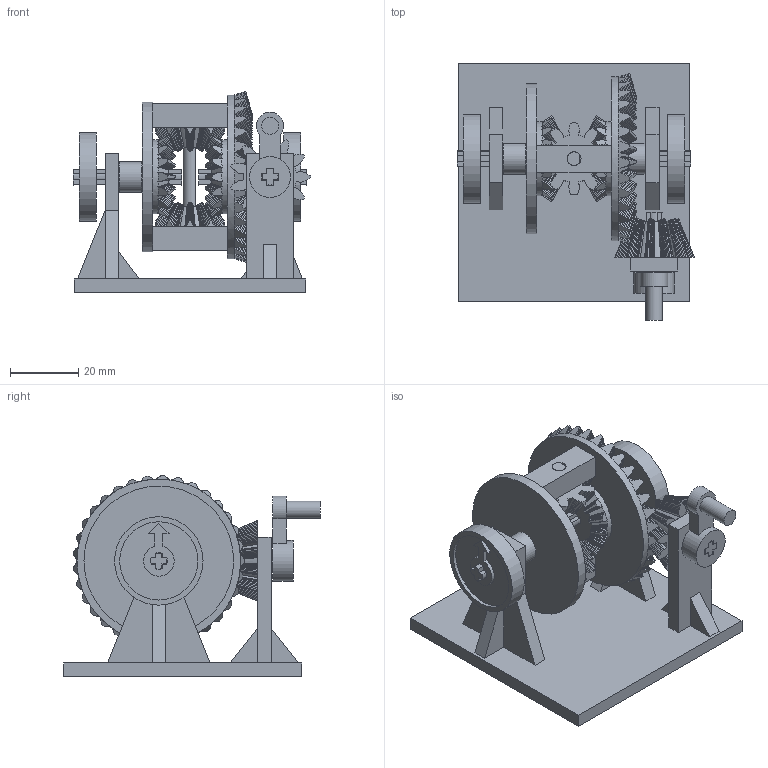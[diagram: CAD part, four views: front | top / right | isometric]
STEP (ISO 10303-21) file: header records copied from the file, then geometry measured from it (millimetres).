
FILE_DESCRIPTION(('Open CASCADE Model'),'2;1');
FILE_NAME('differential_assembly','2000-01-01T00:00:00',('Author'),( 'Open CASCADE'),'Open CASCADE STEP processor 7.9','cadgen','Unknown' );
FILE_SCHEMA(('AUTOMOTIVE_DESIGN { 1 0 10303 214 1 1 1 1 }'));
Length unit declared in the file: millimetre
Products named in the file (15): differential_assembly; frame; carrier_left; ring_half; side_gear:left; spider:bottom; cross_pin; pinion; pinion_shaft; crank; axle:left; sleeve:right; sleeve:left; wheel:right; wheel:left
Assembly tree (17 placements, depth 2):
  differential_assembly
    frame
    carrier_left
    ring_half
    side_gear:left  x2
    spider:bottom  x2
    cross_pin
    pinion
    pinion_shaft
    crank
    axle:left  x2
    sleeve:right
    sleeve:left
    wheel:right
    wheel:left
Bounding box: 69.74 x 75.5 x 59.12 mm (x, y, z)
Volume: 58153.3 mm3; surface area: 40072.4 mm2
Topology: 17 solids, 17 shells, 2350 faces, 6874 edges, 4572 vertices
Faces by surface type: bspline 1698, plane 476, cone 96, cylinder 80
Full cylindrical faces by diameter (mm): 4.1 x2, 4.4 x2, 4.8 x2, 5 x3, 5.4 x5, 5.8 x2, 9 x2, 12 x1, 21.695 x2, 23 x2, 26 x2, 44 x1, 48.124 x1
Entity records: 125433 total; most frequent: CARTESIAN_POINT 36027, DIRECTION 11748, ORIENTED_EDGE 10182, PCURVE 10182, DEFINITIONAL_REPRESENTATION 10182, LINE 9445, VECTOR 9445, EDGE_CURVE 5091
